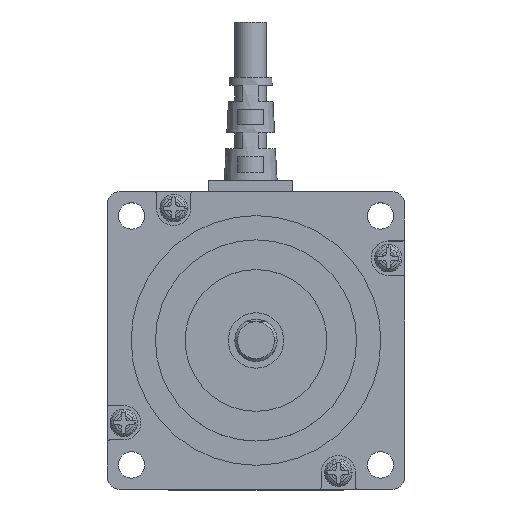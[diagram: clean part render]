
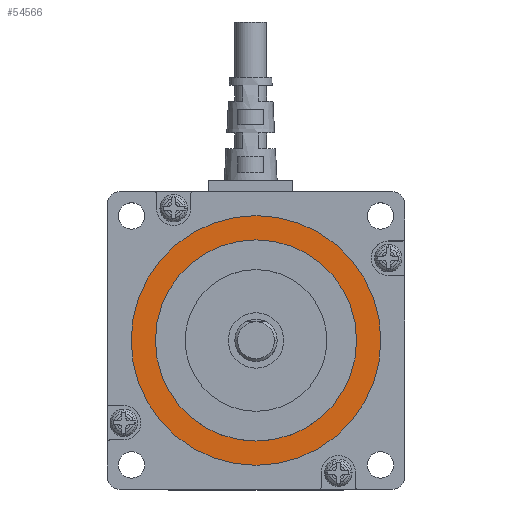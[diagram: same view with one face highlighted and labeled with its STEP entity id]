
A CAD part, top view. The second image highlights one B-rep face of the part: STEP entity #54566.
In plain terms, the highlighted planar face has unit normal (0, 0, 1).
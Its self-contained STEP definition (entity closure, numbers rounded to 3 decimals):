
#359 = AXIS2_PLACEMENT_3D ( 'NONE', #43121, #30852, #74544 ) ;
#647 = EDGE_CURVE ( 'NONE', #22031, #72891, #14665, .T. ) ;
#3314 = VERTEX_POINT ( 'NONE', #62562 ) ;
#4859 = DIRECTION ( 'NONE',  ( 0., 0., 1. ) ) ;
#11814 = ORIENTED_EDGE ( 'NONE', *, *, #24679, .T. ) ;
#12735 = ORIENTED_EDGE ( 'NONE', *, *, #647, .F. ) ;
#14665 = CIRCLE ( 'NONE', #50725, 19.05 ) ;
#15785 = AXIS2_PLACEMENT_3D ( 'NONE', #72836, #35401, #79127 ) ;
#18750 = EDGE_CURVE ( 'NONE', #3314, #81043, #72446, .T. ) ;
#19425 = DIRECTION ( 'NONE',  ( 0., 0., 1. ) ) ;
#20787 = EDGE_LOOP ( 'NONE', ( #71395, #11814 ) ) ;
#22031 = VERTEX_POINT ( 'NONE', #34786 ) ;
#23163 = FACE_BOUND ( 'NONE', #31609, .T. ) ;
#24679 = EDGE_CURVE ( 'NONE', #81043, #3314, #75866, .T. ) ;
#30157 = CARTESIAN_POINT ( 'NONE',  ( 48.851, 42.635, 62.006 ) ) ;
#30852 = DIRECTION ( 'NONE',  ( 0., 0., 1. ) ) ;
#31609 = EDGE_LOOP ( 'NONE', ( #12735, #77414 ) ) ;
#32144 = EDGE_CURVE ( 'NONE', #72891, #22031, #45561, .T. ) ;
#34786 = CARTESIAN_POINT ( 'NONE',  ( 10.751, 42.635, 62.006 ) ) ;
#35401 = DIRECTION ( 'NONE',  ( 0., 0., 1. ) ) ;
#35422 = DIRECTION ( 'NONE',  ( 0., 0., 1. ) ) ;
#35663 = AXIS2_PLACEMENT_3D ( 'NONE', #56827, #19425, #63085 ) ;
#42280 = CARTESIAN_POINT ( 'NONE',  ( 29.801, 42.635, 62.006 ) ) ;
#43121 = CARTESIAN_POINT ( 'NONE',  ( 29.801, 42.635, 62.006 ) ) ;
#45561 = CIRCLE ( 'NONE', #48654, 19.05 ) ;
#48579 = DIRECTION ( 'NONE',  ( 1., 0., 0. ) ) ;
#48654 = AXIS2_PLACEMENT_3D ( 'NONE', #42280, #4859, #48579 ) ;
#50725 = AXIS2_PLACEMENT_3D ( 'NONE', #72856, #35422, #79146 ) ;
#54566 = ADVANCED_FACE ( 'NONE', ( #23163, #56338 ), #61915, .T. ) ;
#56338 = FACE_OUTER_BOUND ( 'NONE', #20787, .T. ) ;
#56827 = CARTESIAN_POINT ( 'NONE',  ( 29.801, 42.635, 62.006 ) ) ;
#61915 = PLANE ( 'NONE',  #359 ) ;
#62562 = CARTESIAN_POINT ( 'NONE',  ( 53.441, 42.635, 62.006 ) ) ;
#63085 = DIRECTION ( 'NONE',  ( 1., 0., 0. ) ) ;
#71395 = ORIENTED_EDGE ( 'NONE', *, *, #18750, .T. ) ;
#72446 = CIRCLE ( 'NONE', #35663, 23.64 ) ;
#72836 = CARTESIAN_POINT ( 'NONE',  ( 29.801, 42.635, 62.006 ) ) ;
#72856 = CARTESIAN_POINT ( 'NONE',  ( 29.801, 42.635, 62.006 ) ) ;
#72891 = VERTEX_POINT ( 'NONE', #30157 ) ;
#73900 = CARTESIAN_POINT ( 'NONE',  ( 6.16, 42.635, 62.006 ) ) ;
#74544 = DIRECTION ( 'NONE',  ( 1., 0., 0. ) ) ;
#75866 = CIRCLE ( 'NONE', #15785, 23.64 ) ;
#77414 = ORIENTED_EDGE ( 'NONE', *, *, #32144, .F. ) ;
#79127 = DIRECTION ( 'NONE',  ( 1., 0., 0. ) ) ;
#79146 = DIRECTION ( 'NONE',  ( 1., 0., 0. ) ) ;
#81043 = VERTEX_POINT ( 'NONE', #73900 ) ;
